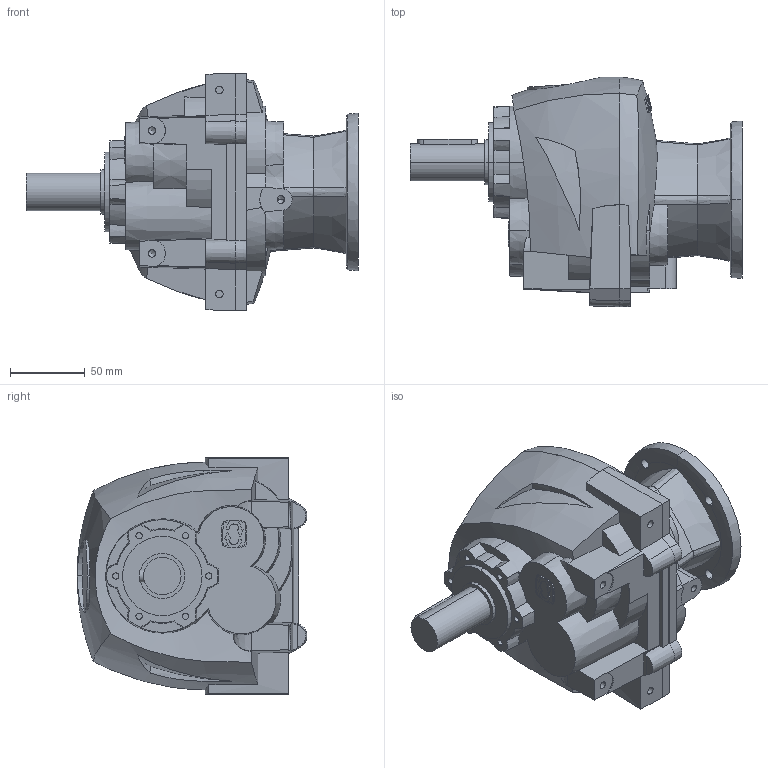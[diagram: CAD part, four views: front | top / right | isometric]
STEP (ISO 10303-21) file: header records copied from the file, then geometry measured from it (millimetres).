
FILE_DESCRIPTION (( 'STEP AP203' ), '1' );
FILE_NAME ('RBA2_IFL71B4_UNV_OSH25L50.STEP', '2013-02-07T09:46:09', ( '' ), ( '' ), 'SwSTEP 2.0', 'SolidWorks 2012', '' );
FILE_SCHEMA (( 'CONFIG_CONTROL_DESIGN' ));
Length unit declared in the file: millimetre
Products named in the file (1): RBA2_IFL71B4_UNV_OSH25L50
Bounding box: 221.5 x 153.38 x 158 mm (x, y, z)
Volume: 1793485.3 mm3; surface area: 123222.5 mm2
Topology: 1 solids, 1 shells, 469 faces, 1310 edges, 871 vertices
Faces by surface type: plane 218, cylinder 132, bspline 66, cone 49, torus 4
Entity records: 20543 total; most frequent: CARTESIAN_POINT 9452, ORIENTED_EDGE 2608, DIRECTION 1860, EDGE_CURVE 1304, VERTEX_POINT 869, AXIS2_PLACEMENT_3D 696, EDGE_LOOP 509, B_SPLINE_CURVE_WITH_KNOTS 505
